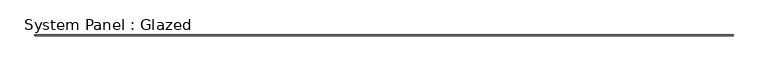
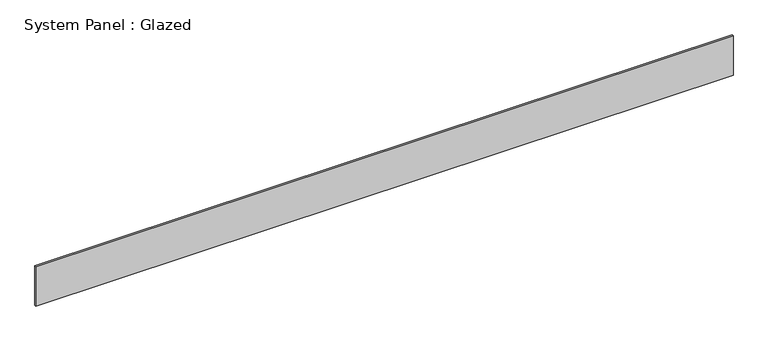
"""IFC4 building model written with IfcOpenShell, lengths in millimetres: plate geometry, System Panel : Glazed."""

from ifc_helpers import new_model, si_unit, origin, origin_with_axes, place, context, project, spatial, polyline, outline, extrude, source, transform, mapped, element, save


def system_panel_glazed_0d75d7f1(model_context):
    return source(origin(), model_context, "Body", "SweptSolid", [
        extrude(outline(polyline([(8351.0696813, 24.5), (-8351.0696813, 24.5), (-8351.0696813, 49.5), (8351.0696813, 49.5), (8351.0696813, 24.5)])), origin_with_axes(), (0.0, 0.0, 1.0), 1000.0),
    ])


if __name__ == "__main__":
    model = new_model("IFC4")
    model_context = context("Model", 3, world=origin())
    ifc_project = project(units=[si_unit("LENGTHUNIT", "METRE", prefix="MILLI")], contexts=[model_context])
    site = spatial("IfcSite", under=ifc_project)
    building = spatial("IfcBuilding", under=site)
    placement = place(None, origin())
    system_panel_glazed_shape = system_panel_glazed_0d75d7f1(model_context)
    element("IfcPlate", 1, ObjectType="System Panel : Glazed", at=placement, inside=building, context=model_context, shape_type="MappedRepresentation", body=[
        mapped(system_panel_glazed_shape, transform((0.0, 0.0, 0.0), x_axis=(1.0, 0.0, 0.0), y_axis=(0.0, 1.0, 0.0), z_axis=(0.0, 0.0, 1.0))),
    ])
    save(model, "model.ifc")
